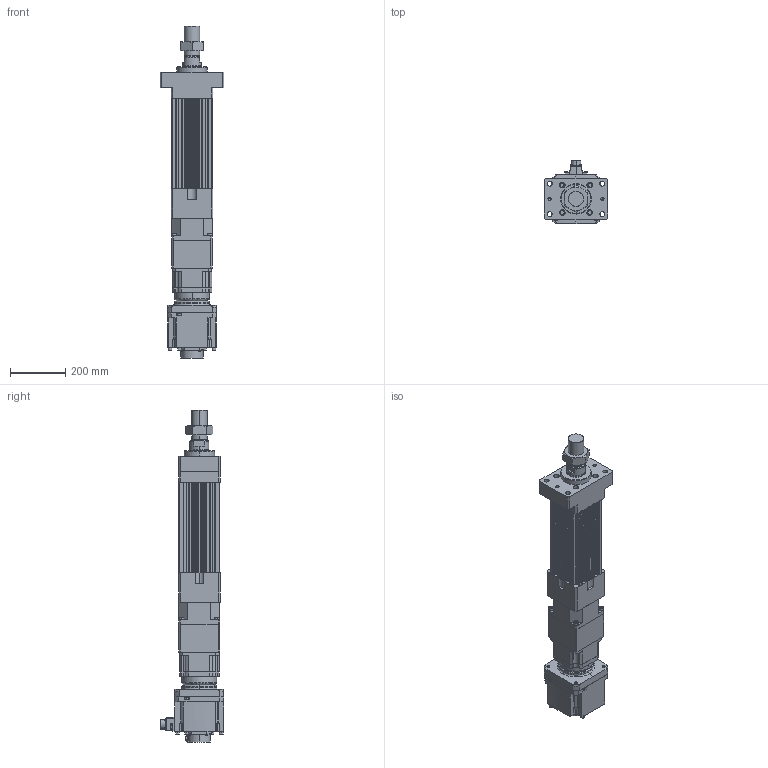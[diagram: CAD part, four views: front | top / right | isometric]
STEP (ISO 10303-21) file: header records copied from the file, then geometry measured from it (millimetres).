
FILE_DESCRIPTION (( 'STEP AP203' ), '1' );
FILE_NAME ('HES150NS(HS)-S050-W035G00-M-FM.STEP', '2023-02-01T04:09:58', ( 'tms' ), ( '' ), 'SwSTEP 2.0', 'SolidWorks 2013', '' );
FILE_SCHEMA (( 'CONFIG_CONTROL_DESIGN' ));
Length unit declared in the file: millimetre
Products named in the file (9): M56X2.0P; HES150 ROD M ST050; HES150NS(HS)-S050-W035G00-M-FM; AB1421; P1301500001; HG-SR352; AB142-003[HG-SR352]; P0403500801; HES150-S050-G142-FM
Assembly tree (8 placements, depth 3):
  HES150NS(HS)-S050-W035G00-M-FM
    HES150-S050-G142-FM
    HES150 ROD M ST050
    M56X2.0P
    AB142-003[HG-SR352]
      AB1421
      P1301500001
      P0403500801
    HG-SR352
Bounding box: 230 x 228.85 x 1197.5 mm (x, y, z)
Volume: 14046231.6 mm3; surface area: 1422818.8 mm2
Topology: 5 solids, 23 shells, 1508 faces, 3908 edges, 2538 vertices
Faces by surface type: cylinder 687, plane 587, cone 152, bspline 76, torus 6
Entity records: 55082 total; most frequent: CARTESIAN_POINT 16753, DIRECTION 8014, ORIENTED_EDGE 7718, EDGE_CURVE 3881, AXIS2_PLACEMENT_3D 3024, VERTEX_POINT 2538, LINE 1966, VECTOR 1966
